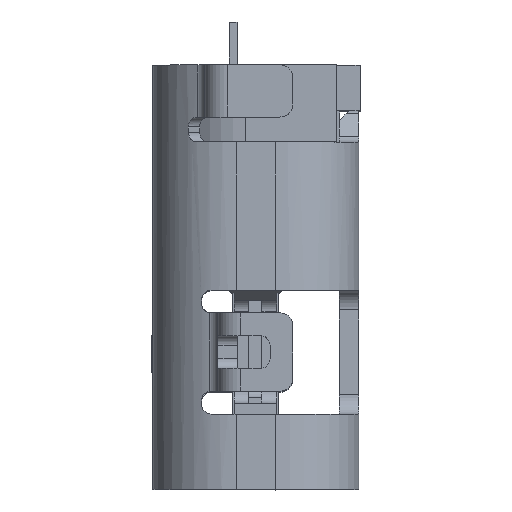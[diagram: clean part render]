
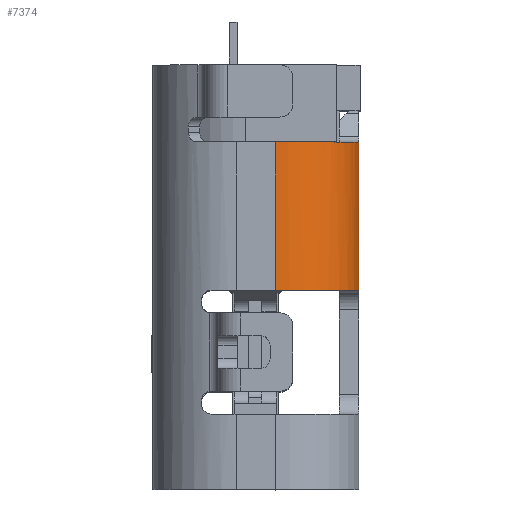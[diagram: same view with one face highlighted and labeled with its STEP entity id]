
A CAD part, left-side view. The second image highlights one B-rep face of the part: STEP entity #7374.
In plain terms, the highlighted cylindrical face has radius 1.28 mm (diameter 2.56 mm), a partial arc.
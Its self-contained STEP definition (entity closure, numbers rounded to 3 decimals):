
#185 = CIRCLE ( 'NONE', #23105, 1.28 ) ;
#787 = VERTEX_POINT ( 'NONE', #20773 ) ;
#1420 = DIRECTION ( 'NONE',  ( 0.001, 0., 1. ) ) ;
#2282 = VERTEX_POINT ( 'NONE', #5813 ) ;
#3957 = DIRECTION ( 'NONE',  ( -0.001, 0., -1. ) ) ;
#4865 = AXIS2_PLACEMENT_3D ( 'NONE', #6863, #3957, #27592 ) ;
#4893 = CARTESIAN_POINT ( 'NONE',  ( -3.189, -0.305, -5.295 ) ) ;
#5516 = VERTEX_POINT ( 'NONE', #5896 ) ;
#5813 = CARTESIAN_POINT ( 'NONE',  ( -4.469, -0.305, -5.294 ) ) ;
#5896 = CARTESIAN_POINT ( 'NONE',  ( -4.138, -1.164, -5.294 ) ) ;
#6863 = CARTESIAN_POINT ( 'NONE',  ( -3.19, -0.305, -6.015 ) ) ;
#7056 = CYLINDRICAL_SURFACE ( 'NONE', #4865, 1.28 ) ;
#7374 = ADVANCED_FACE ( 'NONE', ( #15970 ), #7056, .T. ) ;
#7485 = AXIS2_PLACEMENT_3D ( 'NONE', #34296, #31374, #28457 ) ;
#7661 = VECTOR ( 'NONE', #15060, 1000. ) ;
#8888 = CARTESIAN_POINT ( 'NONE',  ( -3.192, -1.585, -7.565 ) ) ;
#9643 = LINE ( 'NONE', #8888, #21026 ) ;
#9679 = CIRCLE ( 'NONE', #31365, 1.28 ) ;
#9935 = ORIENTED_EDGE ( 'NONE', *, *, #15896, .T. ) ;
#10370 = CARTESIAN_POINT ( 'NONE',  ( -3.192, -1.585, -7.565 ) ) ;
#12976 = VERTEX_POINT ( 'NONE', #10370 ) ;
#13413 = DIRECTION ( 'NONE',  ( -1., 0., 0.001 ) ) ;
#14294 = CIRCLE ( 'NONE', #7485, 1.28 ) ;
#14353 = EDGE_CURVE ( 'NONE', #2282, #28574, #35814, .T. ) ;
#15060 = DIRECTION ( 'NONE',  ( -0.001, 0., -1. ) ) ;
#15896 = EDGE_CURVE ( 'NONE', #28574, #12976, #185, .T. ) ;
#15970 = FACE_OUTER_BOUND ( 'NONE', #36181, .T. ) ;
#17300 = CARTESIAN_POINT ( 'NONE',  ( -3.189, -0.305, -5.295 ) ) ;
#17838 = ORIENTED_EDGE ( 'NONE', *, *, #24499, .T. ) ;
#17874 = DIRECTION ( 'NONE',  ( -0.679, -0.734, 0.001 ) ) ;
#20015 = ORIENTED_EDGE ( 'NONE', *, *, #14353, .T. ) ;
#20171 = ORIENTED_EDGE ( 'NONE', *, *, #29813, .F. ) ;
#20773 = CARTESIAN_POINT ( 'NONE',  ( -4.058, -1.245, -5.294 ) ) ;
#21026 = VECTOR ( 'NONE', #32540, 1000. ) ;
#22149 = ORIENTED_EDGE ( 'NONE', *, *, #27550, .F. ) ;
#23105 = AXIS2_PLACEMENT_3D ( 'NONE', #25077, #1420, #37294 ) ;
#24363 = VERTEX_POINT ( 'NONE', #37988 ) ;
#24499 = EDGE_CURVE ( 'NONE', #12976, #24363, #9643, .T. ) ;
#25077 = CARTESIAN_POINT ( 'NONE',  ( -3.192, -0.305, -7.565 ) ) ;
#25791 = CIRCLE ( 'NONE', #36926, 1.28 ) ;
#27550 = EDGE_CURVE ( 'NONE', #787, #24363, #14294, .T. ) ;
#27592 = DIRECTION ( 'NONE',  ( -1., 0., 0.001 ) ) ;
#27956 = DIRECTION ( 'NONE',  ( 0.001, 0., 1. ) ) ;
#28457 = DIRECTION ( 'NONE',  ( -0.679, -0.734, 0.001 ) ) ;
#28574 = VERTEX_POINT ( 'NONE', #37395 ) ;
#29813 = EDGE_CURVE ( 'NONE', #2282, #5516, #9679, .T. ) ;
#29897 = EDGE_CURVE ( 'NONE', #787, #5516, #25791, .T. ) ;
#31365 = AXIS2_PLACEMENT_3D ( 'NONE', #4893, #27956, #13413 ) ;
#31374 = DIRECTION ( 'NONE',  ( 0.001, 0., 1. ) ) ;
#32021 = DIRECTION ( 'NONE',  ( -0.001, 0., -1. ) ) ;
#32513 = CARTESIAN_POINT ( 'NONE',  ( -4.469, -0.305, -5.294 ) ) ;
#32540 = DIRECTION ( 'NONE',  ( 0.001, 0., 1. ) ) ;
#34296 = CARTESIAN_POINT ( 'NONE',  ( -3.189, -0.305, -5.295 ) ) ;
#34616 = ORIENTED_EDGE ( 'NONE', *, *, #29897, .T. ) ;
#35814 = LINE ( 'NONE', #32513, #7661 ) ;
#36181 = EDGE_LOOP ( 'NONE', ( #20171, #20015, #9935, #17838, #22149, #34616 ) ) ;
#36926 = AXIS2_PLACEMENT_3D ( 'NONE', #17300, #32021, #17874 ) ;
#37294 = DIRECTION ( 'NONE',  ( -1., 0., 0.001 ) ) ;
#37395 = CARTESIAN_POINT ( 'NONE',  ( -4.472, -0.305, -7.564 ) ) ;
#37988 = CARTESIAN_POINT ( 'NONE',  ( -3.189, -1.585, -5.295 ) ) ;
